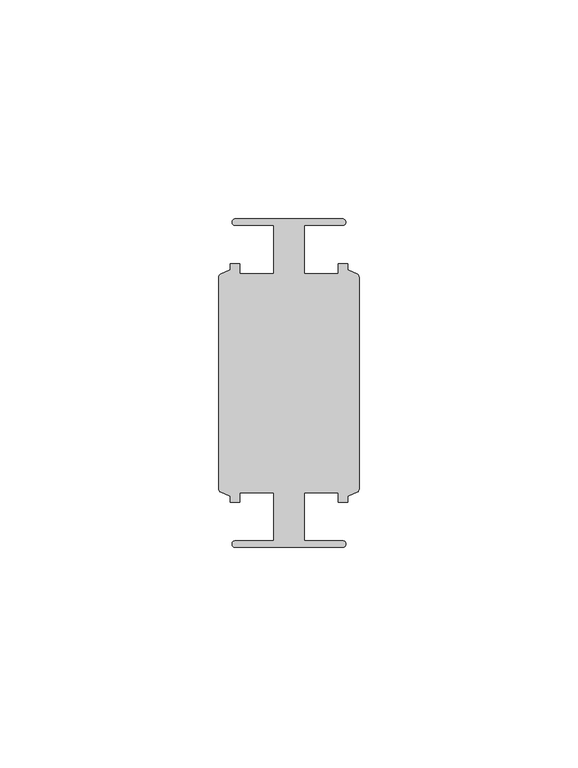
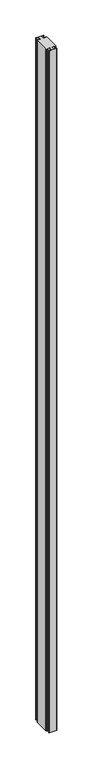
"""IFC4 building model written with IfcOpenShell, lengths in millimetres: member geometry, Прямоугольный импост : 4-AMG-2-Профиль 26Х75 Средний."""

import ifcopenshell
import ifcopenshell.guid

model = None  # the IFC model being written
_history = None  # IfcOwnerHistory: only IFC2X3 demands one
_inside = {}  # id of a spatial element -> (the spatial element, [elements in it])
_under = {}  # id of a project, library or spatial element -> (it, [spatial elements below it])
_declared = {}  # id of a project -> (the project, [libraries it declares])
_typed = {}  # id of a type object -> (the type object, [elements of that type])
_made_of = {}  # id of a material, layer set ... -> (it, [elements and type objects made of it])


def new_model(schema):
    """Start an empty IFC model of exactly this schema.

    Asked for "IFC4X3", IfcOpenShell would pick the latest addendum, in which some entities
    have other attributes; the version numbers below select the first issue.
    IFC2X3 requires an IfcOwnerHistory on every rooted entity: one is made here for all.
    """
    global model, _history
    if schema == "IFC4X3":
        model = ifcopenshell.file(schema_version=(4, 3, 0, 0))
    else:
        model = ifcopenshell.file(schema=schema)
    _inside.clear()
    _under.clear()
    _declared.clear()
    _typed.clear()
    _made_of.clear()
    _history = None
    if model.schema == "IFC2X3":
        org = make("IfcOrganization", Name="unknown")
        user = make(
            "IfcPersonAndOrganization",
            ThePerson=make("IfcPerson", FamilyName="unknown"),
            TheOrganization=org,
        )
        app = make(
            "IfcApplication",
            ApplicationDeveloper=org,
            Version="unknown",
            ApplicationFullName="unknown",
            ApplicationIdentifier="unknown",
        )
        _history = make(
            "IfcOwnerHistory",
            OwningUser=user,
            OwningApplication=app,
            ChangeAction="ADDED",
            CreationDate=0,
        )
    return model


def make(cls, **values):
    """One entity of the class cls with the attributes given. An attribute that is None is left unset."""
    return model.create_entity(
        cls, **{name: value for name, value in values.items() if value is not None}
    )


def rooted(cls, **values):
    """An entity with a GlobalId (a new one), such as an element, a storey or a relation."""
    return make(cls, GlobalId=ifcopenshell.guid.new(), OwnerHistory=_history, **values)


def si_unit(unit_type, name, prefix=None):
    """IfcSIUnit, for example si_unit("LENGTHUNIT", "METRE", prefix="MILLI")."""
    return make("IfcSIUnit", UnitType=unit_type, Prefix=prefix, Name=name)


def assignment(units):
    """IfcUnitAssignment: the units of a project."""
    return None if units is None else make("IfcUnitAssignment", Units=units)


def point(xyz):
    """IfcCartesianPoint."""
    return None if xyz is None else make("IfcCartesianPoint", Coordinates=xyz)


def direction(xyz):
    """IfcDirection."""
    return None if xyz is None else make("IfcDirection", DirectionRatios=xyz)


def frame(location, z_axis=None, x_axis=None):
    """IfcAxis2Placement3D, a coordinate frame: its origin and axes. An axis left out is left unset."""
    return make(
        "IfcAxis2Placement3D",
        Location=point(location),
        Axis=direction(z_axis),
        RefDirection=direction(x_axis),
    )


def frame_2d(location, x_axis=None):
    """IfcAxis2Placement2D, a coordinate frame in the plane: its origin and x axis."""
    return make(
        "IfcAxis2Placement2D", Location=point(location), RefDirection=direction(x_axis)
    )


def origin():
    """The frame at (0, 0, 0) with its axes left unset."""
    return frame((0.0, 0.0, 0.0))


def place(relative_to, where):
    """IfcLocalPlacement: puts the frame where relative to a parent placement (None: the world)."""
    return make(
        "IfcLocalPlacement", PlacementRelTo=relative_to, RelativePlacement=where
    )


def context(
    kind, dimensions, precision=None, world=None, true_north=None, identifier=None
):
    """IfcGeometricRepresentationContext, for example the 3D "Model" context."""
    return make(
        "IfcGeometricRepresentationContext",
        ContextIdentifier=identifier,
        ContextType=kind,
        CoordinateSpaceDimension=dimensions,
        Precision=precision,
        WorldCoordinateSystem=world,
        TrueNorth=true_north,
    )


def project(units=None, contexts=None):
    """IfcProject with its units and contexts."""
    return rooted(
        "IfcProject",
        Name="project",
        RepresentationContexts=contexts,
        UnitsInContext=assignment(units),
    )


def spatial(cls, under=None, at=None, **own):
    """A site, building, storey or space (cls), placed at a placement, below another one or the project."""
    s = rooted(cls, ObjectPlacement=at, **own)
    if under is not None:
        _under.setdefault(under.id(), (under, []))[1].append(s)
    return s


def polyline(points):
    """IfcPolyline through the points."""
    return make("IfcPolyline", Points=[point(p) for p in points])


def circle_curve(where, radius):
    """IfcCircle in the frame where."""
    return make("IfcCircle", Position=where, Radius=radius)


def trimmed(basis, trim1, trim2, sense, master):
    """IfcTrimmedCurve: the piece of a basis curve between two trims."""
    return make(
        "IfcTrimmedCurve",
        BasisCurve=basis,
        Trim1=trim1,
        Trim2=trim2,
        SenseAgreement=sense,
        MasterRepresentation=master,
    )


def segment(curve, same_sense, transition):
    """IfcCompositeCurveSegment."""
    return make(
        "IfcCompositeCurveSegment",
        Transition=transition,
        SameSense=same_sense,
        ParentCurve=curve,
    )


def composite_curve(segments, self_intersect=None):
    """IfcCompositeCurve: segments joined end to end."""
    return make("IfcCompositeCurve", Segments=segments, SelfIntersect=self_intersect)


def outline(outer, holes=None, kind="AREA"):
    """IfcArbitraryClosedProfileDef: a profile drawn as a closed curve; with holes, ...WithVoids."""
    if holes is None:
        return make("IfcArbitraryClosedProfileDef", ProfileType=kind, OuterCurve=outer)
    return make(
        "IfcArbitraryProfileDefWithVoids",
        ProfileType=kind,
        OuterCurve=outer,
        InnerCurves=holes,
    )


def extrude(swept, where, along, depth):
    """IfcExtrudedAreaSolid: the profile swept, set in the frame where, extruded along a direction by depth."""
    return make(
        "IfcExtrudedAreaSolid",
        SweptArea=swept,
        Position=where,
        ExtrudedDirection=direction(along),
        Depth=depth,
    )


def shape(context_of_items, identifier, shape_type, items):
    """IfcShapeRepresentation: the items that make up one representation, for example the "Body"."""
    return make(
        "IfcShapeRepresentation",
        ContextOfItems=context_of_items,
        RepresentationIdentifier=identifier,
        RepresentationType=shape_type,
        Items=items,
    )


def source(mapping_origin, context_of_items, identifier, shape_type, items):
    """IfcRepresentationMap: a shape defined once, which mapped items show again and again."""
    return make(
        "IfcRepresentationMap",
        MappingOrigin=mapping_origin,
        MappedRepresentation=shape(context_of_items, identifier, shape_type, items),
    )


def transform(
    local_origin,
    x_axis=None,
    y_axis=None,
    z_axis=None,
    scale=None,
    scale2=None,
    scale3=None,
    uniform=True,
):
    """IfcCartesianTransformationOperator3D, or its non-uniform kind. x_axis, y_axis, z_axis: its Axis1, 2, 3."""
    if uniform:
        return make(
            "IfcCartesianTransformationOperator3D",
            Axis1=direction(x_axis),
            Axis2=direction(y_axis),
            LocalOrigin=point(local_origin),
            Scale=scale,
            Axis3=direction(z_axis),
        )
    return make(
        "IfcCartesianTransformationOperator3DnonUniform",
        Axis1=direction(x_axis),
        Axis2=direction(y_axis),
        LocalOrigin=point(local_origin),
        Scale=scale,
        Axis3=direction(z_axis),
        Scale2=scale2,
        Scale3=scale3,
    )


def mapped(mapping_source, mapping_target):
    """IfcMappedItem: shows the shape of a source again, moved by a transform."""
    return make(
        "IfcMappedItem", MappingSource=mapping_source, MappingTarget=mapping_target
    )


def made_of(thing, what):
    """Note that an element or type object is made of a material, layer set ...; save() writes the relation."""
    if what is not None:
        _made_of.setdefault(what.id(), (what, []))[1].append(thing)
    return thing


def element(
    cls,
    number,
    at=None,
    inside=None,
    cuts=None,
    type_object=None,
    material=None,
    context=None,
    identifier="Body",
    shape_type=None,
    held_by="IfcProductDefinitionShape",
    body=None,
    shapes=None,
    **own,
):
    """One element of the class cls, such as IfcWall. Its Tag is "e" and its number.

    at: its placement. inside: the storey or other place that contains it. cuts: it is an
    opening in that element (IfcRelVoidsElement). A single representation is given by context,
    identifier, shape_type and body (its items); several are given by shapes. held_by: the class
    of the entity that holds the representations. save() writes the other relations.
    """
    e = rooted(cls, Tag="e%d" % number, ObjectPlacement=at, **own)
    if body is not None:
        shapes = [shape(context, identifier, shape_type, body)]
    if shapes is not None:
        e.Representation = make(held_by, Representations=shapes)
    if inside is not None:
        _inside.setdefault(inside.id(), (inside, []))[1].append(e)
    if cuts is not None:
        rooted(
            "IfcRelVoidsElement", RelatingBuildingElement=cuts, RelatedOpeningElement=e
        )
    if type_object is not None:
        _typed.setdefault(type_object.id(), (type_object, []))[1].append(e)
    return made_of(e, material)


def aggregate(whole, parts):
    """IfcRelAggregates: a whole, such as a stair, and the parts it consists of."""
    return rooted("IfcRelAggregates", RelatingObject=whole, RelatedObjects=parts)


def save(model, path):
    """Write the relations noted so far, then the file.

    IfcRelAggregates (storeys below a building ...), IfcRelContainedInSpatialStructure (elements
    in a storey), IfcRelDefinesByType, IfcRelAssociatesMaterial and IfcRelDeclares: one each for
    every whole, place, type object, material and project.
    """
    for whole, parts in _under.values():
        aggregate(whole, parts)
    for where, things in _inside.values():
        rooted(
            "IfcRelContainedInSpatialStructure",
            RelatedElements=things,
            RelatingStructure=where,
        )
    for kind, things in _typed.values():
        rooted("IfcRelDefinesByType", RelatedObjects=things, RelatingType=kind)
    for what, things in _made_of.values():
        rooted("IfcRelAssociatesMaterial", RelatedObjects=things, RelatingMaterial=what)
    for by, libraries in _declared.values():
        rooted("IfcRelDeclares", RelatingContext=by, RelatedDefinitions=libraries)
    model.write(path)


def member_6fa34456(model_context):
    return source(origin(), model_context, "Body", "SweptSolid", [
        extrude(outline(composite_curve([segment(trimmed(circle_curve(frame_2d((12.2876562, 36.75)), 0.75), [point((12.2876562, 37.5))], [point((12.2876562, 36.0))], False, "CARTESIAN"), True, "CONTINUOUS"), segment(polyline([(12.2876562, 36.0), (3.5376562, 36.0), (3.5376562, 25.0), (11.2593767, 25.0), (11.2593767, 27.25), (13.4846403, 27.25), (13.4846403, 25.836597), (15.5572539, 24.9333875)]), True, "CONTINUOUS"), segment(trimmed(circle_curve(frame_2d((15.2376562, 24.2)), 0.8), [point((15.5572539, 24.9333875))], [point((16.0376562, 24.2))], False, "CARTESIAN"), True, "CONTINUOUS"), segment(polyline([(16.0376562, 24.2), (16.0376562, -24.2)]), True, "CONTINUOUS"), segment(trimmed(circle_curve(frame_2d((15.2376562, -24.2)), 0.8), [point((16.0376562, -24.2))], [point((15.5572539, -24.9333875))], False, "CARTESIAN"), True, "CONTINUOUS"), segment(polyline([(15.5572539, -24.9333875), (13.4846403, -25.836597), (13.4846403, -27.25), (11.2593767, -27.25), (11.2593767, -24.9914758), (3.5376562, -24.9914758), (3.5376562, -36.0), (12.2876562, -36.0)]), True, "CONTINUOUS"), segment(trimmed(circle_curve(frame_2d((12.2876562, -36.75)), 0.75), [point((12.2876562, -36.0))], [point((12.2876562, -37.5))], False, "CARTESIAN"), True, "CONTINUOUS"), segment(polyline([(12.2876562, -37.5), (-12.2123438, -37.5)]), True, "CONTINUOUS"), segment(trimmed(circle_curve(frame_2d((-12.2123438, -36.75)), 0.75), [point((-12.2123438, -37.5))], [point((-12.2123438, -36.0))], False, "CARTESIAN"), True, "CONTINUOUS"), segment(polyline([(-12.2123438, -36.0), (-3.4623438, -36.0), (-3.4623438, -24.9913353), (-11.2593767, -24.9913353), (-11.2593767, -27.25), (-13.4093278, -27.25), (-13.4093278, -25.836597), (-15.4819415, -24.9333875)]), True, "CONTINUOUS"), segment(trimmed(circle_curve(frame_2d((-15.1623438, -24.2)), 0.8), [point((-15.4819415, -24.9333875))], [point((-15.9623438, -24.2))], False, "CARTESIAN"), True, "CONTINUOUS"), segment(polyline([(-15.9623438, -24.2), (-15.9623438, 24.2)]), True, "CONTINUOUS"), segment(trimmed(circle_curve(frame_2d((-15.1623438, 24.2)), 0.8), [point((-15.9623438, 24.2))], [point((-15.4819415, 24.9333875))], False, "CARTESIAN"), True, "CONTINUOUS"), segment(polyline([(-15.4819415, 24.9333875), (-13.4093278, 25.836597), (-13.4093278, 27.25), (-11.2593767, 27.25), (-11.2593767, 25.0), (-3.4623438, 25.0), (-3.4623438, 36.0), (-12.2123438, 36.0)]), True, "CONTINUOUS"), segment(trimmed(circle_curve(frame_2d((-12.2123438, 36.75)), 0.75), [point((-12.2123438, 36.0))], [point((-12.2123438, 37.5))], False, "CARTESIAN"), True, "CONTINUOUS"), segment(polyline([(-12.2123438, 37.5), (12.2876562, 37.5)]), True, "CONTINUOUS")], self_intersect=False)), frame((0.0, 0.0, -2357.0376562), z_axis=(0.0, 0.0, 1.0), x_axis=(1.0, 0.0, 0.0)), (0.0, 0.0, 1.0), 2357.0376562),
    ])


if __name__ == "__main__":
    model = new_model("IFC4")
    model_context = context("Model", 3, world=origin())
    ifc_project = project(units=[si_unit("LENGTHUNIT", "METRE", prefix="MILLI")], contexts=[model_context])
    site = spatial("IfcSite", under=ifc_project)
    building = spatial("IfcBuilding", under=site)
    placement = place(None, origin())
    member_shape = member_6fa34456(model_context)
    element("IfcMember", 1, ObjectType="Прямоугольный импост : 4-AMG-2-Профиль 26Х75 Средний", at=placement, inside=building, context=model_context, shape_type="MappedRepresentation", body=[
        mapped(member_shape, transform((0.0, 0.0, 0.0), x_axis=(1.0, 0.0, 0.0), y_axis=(0.0, 1.0, 0.0), z_axis=(0.0, 0.0, 1.0))),
    ])
    save(model, "model.ifc")
